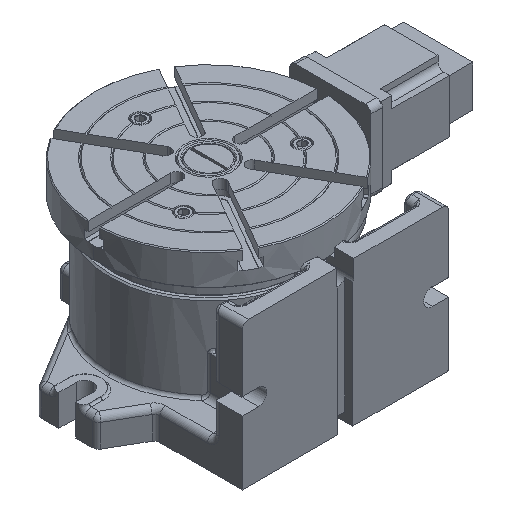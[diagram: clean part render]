
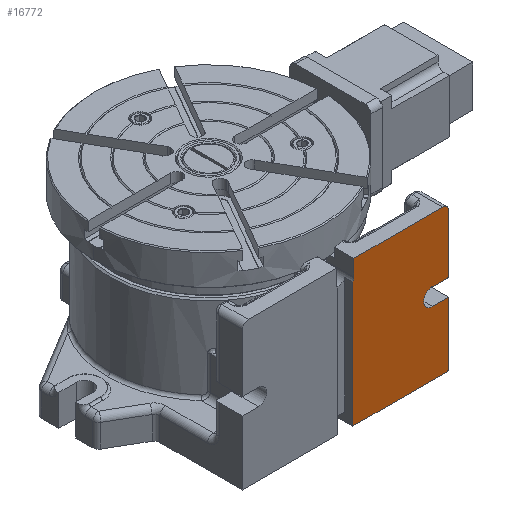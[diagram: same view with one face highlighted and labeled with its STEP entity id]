
A CAD part, isometric view. The second image highlights one B-rep face of the part: STEP entity #16772.
In plain terms, the highlighted planar face has unit normal (0, -1, 0).
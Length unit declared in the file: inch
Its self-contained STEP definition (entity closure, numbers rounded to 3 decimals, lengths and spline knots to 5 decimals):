
#1143 = AXIS2_PLACEMENT_3D ( 'NONE', #2184, #2185, #2186 ) ;
#1144 = AXIS2_PLACEMENT_3D ( 'NONE', #2193, #2194, #2195 ) ;
#1145 = AXIS2_PLACEMENT_3D ( 'NONE', #2198, #2199, #2200 ) ;
#2173 = CARTESIAN_POINT ( 'NONE',  ( 3.75, -5.9, 2.76083 ) ) ;
#2174 = DIRECTION ( 'NONE',  ( 1., 0., 0. ) ) ;
#2182 = CARTESIAN_POINT ( 'NONE',  ( 3.75, -5.9, 3.48917 ) ) ;
#2183 = DIRECTION ( 'NONE',  ( -1., 0., 0. ) ) ;
#2184 = CARTESIAN_POINT ( 'NONE',  ( 3.75, -5.9, 3.125 ) ) ;
#2185 = DIRECTION ( 'NONE',  ( 0., -1., 0. ) ) ;
#2186 = DIRECTION ( 'NONE',  ( 0., 0., 1. ) ) ;
#2187 = CARTESIAN_POINT ( 'NONE',  ( 6.1, -5.9, 0. ) ) ;
#2188 = DIRECTION ( 'NONE',  ( -1., 0., 0. ) ) ;
#2189 = CARTESIAN_POINT ( 'NONE',  ( 0.325, -5.9, 0.35 ) ) ;
#2190 = DIRECTION ( 'NONE',  ( 0., 0., -1. ) ) ;
#2191 = CARTESIAN_POINT ( 'NONE',  ( 4.45, -5.9, 6.25 ) ) ;
#2192 = DIRECTION ( 'NONE',  ( 0., 0., -1. ) ) ;
#2193 = CARTESIAN_POINT ( 'NONE',  ( 0., -5.9, 5.55 ) ) ;
#2194 = DIRECTION ( 'NONE',  ( 0., 1., 0. ) ) ;
#2195 = DIRECTION ( 'NONE',  ( 0., 0., 1. ) ) ;
#2198 = CARTESIAN_POINT ( 'NONE',  ( 4.2, -5.9, 6. ) ) ;
#2199 = DIRECTION ( 'NONE',  ( 0., -1., 0. ) ) ;
#2200 = DIRECTION ( 'NONE',  ( 0., 0., 1. ) ) ;
#2228 = CARTESIAN_POINT ( 'NONE',  ( 4.45, -5.9, 0. ) ) ;
#2230 = CARTESIAN_POINT ( 'NONE',  ( 3.75, -5.9, 2.76083 ) ) ;
#2233 = CARTESIAN_POINT ( 'NONE',  ( 4.45, -5.9, 3.48917 ) ) ;
#2235 = CARTESIAN_POINT ( 'NONE',  ( 4.45, -5.9, 2.76083 ) ) ;
#2236 = CARTESIAN_POINT ( 'NONE',  ( 0.325, -5.9, 5.38569 ) ) ;
#2239 = CARTESIAN_POINT ( 'NONE',  ( 4.45, -5.9, 6. ) ) ;
#2241 = CARTESIAN_POINT ( 'NONE',  ( 0.325, -5.9, 0. ) ) ;
#2242 = CARTESIAN_POINT ( 'NONE',  ( 3.75, -5.9, 3.48917 ) ) ;
#2809 = CIRCLE ( 'NONE', #1144, 0.36417 ) ;
#2821 = LINE ( 'NONE', #2182, #2824 ) ;
#2823 = CIRCLE ( 'NONE', #1143, 0.36417 ) ;
#2824 = VECTOR ( 'NONE', #2183, 39.37008 ) ;
#2825 = LINE ( 'NONE', #2173, #2827 ) ;
#2826 = LINE ( 'NONE', #2187, #2829 ) ;
#2827 = VECTOR ( 'NONE', #2174, 39.37008 ) ;
#2828 = LINE ( 'NONE', #2189, #2831 ) ;
#2829 = VECTOR ( 'NONE', #2188, 39.37008 ) ;
#2831 = VECTOR ( 'NONE', #2190, 39.37008 ) ;
#2832 = CIRCLE ( 'NONE', #1145, 0.25 ) ;
#2833 = LINE ( 'NONE', #2191, #2835 ) ;
#2835 = VECTOR ( 'NONE', #2192, 39.37008 ) ;
#3410 = VECTOR ( 'NONE', #11728, 39.37008 ) ;
#3411 = LINE ( 'NONE', #11723, #3410 ) ;
#3500 = LINE ( 'NONE', #12346, #3503 ) ;
#3503 = VECTOR ( 'NONE', #12348, 39.37008 ) ;
#3555 = LINE ( 'NONE', #12566, #3558 ) ;
#3558 = VECTOR ( 'NONE', #12568, 39.37008 ) ;
#11723 = CARTESIAN_POINT ( 'NONE',  ( 4.45, -5.9, 6.25 ) ) ;
#11728 = DIRECTION ( 'NONE',  ( 0., 0., -1. ) ) ;
#12346 = CARTESIAN_POINT ( 'NONE',  ( 0.36417, -5.9, 5.55 ) ) ;
#12348 = DIRECTION ( 'NONE',  ( 0., 0., -1. ) ) ;
#12566 = CARTESIAN_POINT ( 'NONE',  ( 6.1, -5.9, 6.25 ) ) ;
#12568 = DIRECTION ( 'NONE',  ( -1., 0., 0. ) ) ;
#16772 = ADVANCED_FACE ( 'NONE', ( #24292 ), #26427, .F. ) ;
#17789 = ORIENTED_EDGE ( 'NONE', *, *, #18721, .F. ) ;
#17790 = ORIENTED_EDGE ( 'NONE', *, *, #18720, .T. ) ;
#17791 = ORIENTED_EDGE ( 'NONE', *, *, #21536, .T. ) ;
#17792 = ORIENTED_EDGE ( 'NONE', *, *, #21503, .T. ) ;
#17793 = ORIENTED_EDGE ( 'NONE', *, *, #18719, .T. ) ;
#17794 = ORIENTED_EDGE ( 'NONE', *, *, #18718, .T. ) ;
#17795 = ORIENTED_EDGE ( 'NONE', *, *, #18717, .F. ) ;
#17796 = ORIENTED_EDGE ( 'NONE', *, *, #21432, .F. ) ;
#17797 = ORIENTED_EDGE ( 'NONE', *, *, #18716, .F. ) ;
#17798 = ORIENTED_EDGE ( 'NONE', *, *, #18715, .F. ) ;
#17799 = ORIENTED_EDGE ( 'NONE', *, *, #18714, .F. ) ;
#18162 = VERTEX_POINT ( 'NONE', #30391 ) ;
#18163 = VERTEX_POINT ( 'NONE', #30392 ) ;
#18186 = VERTEX_POINT ( 'NONE', #30415 ) ;
#18714 = EDGE_CURVE ( 'NONE', #18753, #18762, #2821, .T. ) ;
#18715 = EDGE_CURVE ( 'NONE', #18762, #18750, #2823, .T. ) ;
#18716 = EDGE_CURVE ( 'NONE', #18750, #18755, #2825, .T. ) ;
#18717 = EDGE_CURVE ( 'NONE', #18748, #18761, #2826, .T. ) ;
#18718 = EDGE_CURVE ( 'NONE', #18756, #18761, #2828, .T. ) ;
#18719 = EDGE_CURVE ( 'NONE', #18186, #18756, #2809, .T. ) ;
#18720 = EDGE_CURVE ( 'NONE', #18759, #18162, #2832, .T. ) ;
#18721 = EDGE_CURVE ( 'NONE', #18759, #18753, #2833, .T. ) ;
#18748 = VERTEX_POINT ( 'NONE', #2228 ) ;
#18750 = VERTEX_POINT ( 'NONE', #2230 ) ;
#18753 = VERTEX_POINT ( 'NONE', #2233 ) ;
#18755 = VERTEX_POINT ( 'NONE', #2235 ) ;
#18756 = VERTEX_POINT ( 'NONE', #2236 ) ;
#18759 = VERTEX_POINT ( 'NONE', #2239 ) ;
#18761 = VERTEX_POINT ( 'NONE', #2241 ) ;
#18762 = VERTEX_POINT ( 'NONE', #2242 ) ;
#19130 = EDGE_LOOP ( 'NONE', ( #17789, #17790, #17791, #17792, #17793, #17794, #17795, #17796, #17797, #17798, #17799 ) ) ;
#21432 = EDGE_CURVE ( 'NONE', #18755, #18748, #3411, .T. ) ;
#21503 = EDGE_CURVE ( 'NONE', #18163, #18186, #3500, .T. ) ;
#21536 = EDGE_CURVE ( 'NONE', #18162, #18163, #3555, .T. ) ;
#24292 = FACE_OUTER_BOUND ( 'NONE', #19130, .T. ) ;
#24714 = AXIS2_PLACEMENT_3D ( 'NONE', #26440, #26441, #26442 ) ;
#26427 = PLANE ( 'NONE',  #24714 ) ;
#26440 = CARTESIAN_POINT ( 'NONE',  ( 6.1, -5.9, 0. ) ) ;
#26441 = DIRECTION ( 'NONE',  ( 0., 1., 0. ) ) ;
#26442 = DIRECTION ( 'NONE',  ( 0., 0., 1. ) ) ;
#30391 = CARTESIAN_POINT ( 'NONE',  ( 4.2, -5.9, 6.25 ) ) ;
#30392 = CARTESIAN_POINT ( 'NONE',  ( 0.36417, -5.9, 6.25 ) ) ;
#30415 = CARTESIAN_POINT ( 'NONE',  ( 0.36417, -5.9, 5.55 ) ) ;
